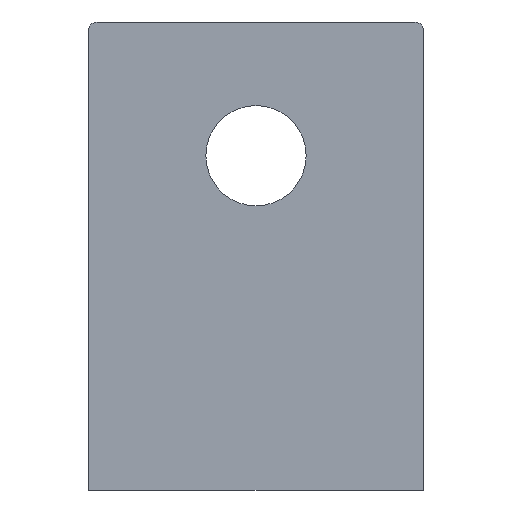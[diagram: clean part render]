
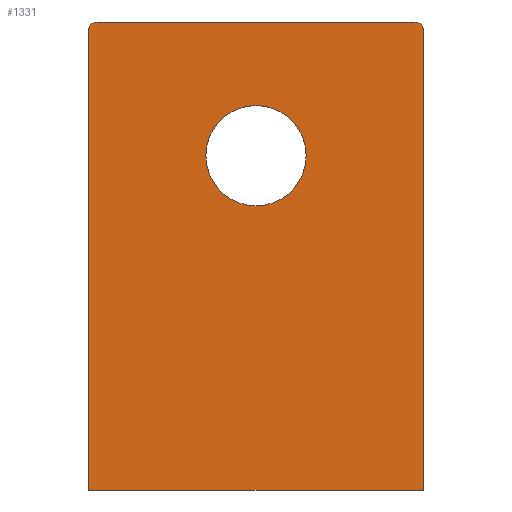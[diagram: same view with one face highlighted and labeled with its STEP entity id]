
A CAD part, front view. The second image highlights one B-rep face of the part: STEP entity #1331.
In plain terms, the highlighted planar face has unit normal (0, -1, 0).
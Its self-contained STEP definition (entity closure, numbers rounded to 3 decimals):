
#10 = ORIENTED_EDGE ( 'NONE', *, *, #200, .F. ) ;
#11 = ORIENTED_EDGE ( 'NONE', *, *, #183, .F. ) ;
#12 = ORIENTED_EDGE ( 'NONE', *, *, #176, .T. ) ;
#13 = ORIENTED_EDGE ( 'NONE', *, *, #481, .T. ) ;
#15 = ORIENTED_EDGE ( 'NONE', *, *, #490, .T. ) ;
#16 = ORIENTED_EDGE ( 'NONE', *, *, #486, .F. ) ;
#17 = ORIENTED_EDGE ( 'NONE', *, *, #483, .F. ) ;
#18 = ORIENTED_EDGE ( 'NONE', *, *, #491, .T. ) ;
#108 = AXIS2_PLACEMENT_3D ( 'NONE', #592, #591, #584 ) ;
#176 = EDGE_CURVE ( 'NONE', #1282, #1266, #310, .T. ) ;
#180 = AXIS2_PLACEMENT_3D ( 'NONE', #447, #445, #444 ) ;
#183 = EDGE_CURVE ( 'NONE', #1525, #1251, #994, .T. ) ;
#195 = AXIS2_PLACEMENT_3D ( 'NONE', #332, #331, #330 ) ;
#200 = EDGE_CURVE ( 'NONE', #1251, #1525, #1003, .T. ) ;
#206 = AXIS2_PLACEMENT_3D ( 'NONE', #631, #672, #698 ) ;
#245 = AXIS2_PLACEMENT_3D ( 'NONE', #431, #429, #428 ) ;
#310 = LINE ( 'NONE', #459, #313 ) ;
#313 = VECTOR ( 'NONE', #464, 1000. ) ;
#329 = CARTESIAN_POINT ( 'NONE',  ( 10., 0., 0. ) ) ;
#330 = DIRECTION ( 'NONE',  ( 0., 0., 1. ) ) ;
#331 = DIRECTION ( 'NONE',  ( 0., -1., 0. ) ) ;
#332 = CARTESIAN_POINT ( 'NONE',  ( -9.5, 0., 27.5 ) ) ;
#333 = DIRECTION ( 'NONE',  ( 0., 0., -1. ) ) ;
#334 = CARTESIAN_POINT ( 'NONE',  ( 10., 0., 0. ) ) ;
#428 = DIRECTION ( 'NONE',  ( 0., 0., 1. ) ) ;
#429 = DIRECTION ( 'NONE',  ( 0., -1., 0. ) ) ;
#431 = CARTESIAN_POINT ( 'NONE',  ( 0., 0., 20. ) ) ;
#444 = DIRECTION ( 'NONE',  ( 0., 0., 1. ) ) ;
#445 = DIRECTION ( 'NONE',  ( 0., -1., 0. ) ) ;
#447 = CARTESIAN_POINT ( 'NONE',  ( 0., 0., 20. ) ) ;
#459 = CARTESIAN_POINT ( 'NONE',  ( 10., 0., 28. ) ) ;
#464 = DIRECTION ( 'NONE',  ( -1., 0., 0. ) ) ;
#481 = EDGE_CURVE ( 'NONE', #1266, #1304, #1044, .T. ) ;
#483 = EDGE_CURVE ( 'NONE', #1293, #1322, #1046, .T. ) ;
#486 = EDGE_CURVE ( 'NONE', #1322, #1537, #1047, .T. ) ;
#490 = EDGE_CURVE ( 'NONE', #1304, #1537, #1058, .T. ) ;
#491 = EDGE_CURVE ( 'NONE', #1293, #1282, #1060, .T. ) ;
#522 = CARTESIAN_POINT ( 'NONE',  ( 10., 0., 27.5 ) ) ;
#526 = CARTESIAN_POINT ( 'NONE',  ( 9.5, 0., 28. ) ) ;
#533 = CARTESIAN_POINT ( 'NONE',  ( -9.5, 0., 28. ) ) ;
#556 = CARTESIAN_POINT ( 'NONE',  ( 0., 0., 23. ) ) ;
#584 = DIRECTION ( 'NONE',  ( 0., 0., 1. ) ) ;
#591 = DIRECTION ( 'NONE',  ( 0., -1., 0. ) ) ;
#592 = CARTESIAN_POINT ( 'NONE',  ( 9.5, 0., 27.5 ) ) ;
#602 = DIRECTION ( 'NONE',  ( 0., 0., -1. ) ) ;
#604 = CARTESIAN_POINT ( 'NONE',  ( -10., 0., 0. ) ) ;
#626 = DIRECTION ( 'NONE',  ( -1., 0., 0. ) ) ;
#630 = CARTESIAN_POINT ( 'NONE',  ( 10., 0., 0. ) ) ;
#631 = CARTESIAN_POINT ( 'NONE',  ( 10., 0., 0. ) ) ;
#672 = DIRECTION ( 'NONE',  ( 0., 1., 0. ) ) ;
#675 = CARTESIAN_POINT ( 'NONE',  ( -10., 0., 27.5 ) ) ;
#698 = DIRECTION ( 'NONE',  ( 0., 0., 1. ) ) ;
#703 = PLANE ( 'NONE',  #206 ) ;
#876 = FACE_OUTER_BOUND ( 'NONE', #1262, .T. ) ;
#879 = FACE_BOUND ( 'NONE', #1268, .T. ) ;
#994 = CIRCLE ( 'NONE', #180, 3. ) ;
#1003 = CIRCLE ( 'NONE', #245, 3. ) ;
#1044 = CIRCLE ( 'NONE', #195, 0.5 ) ;
#1046 = LINE ( 'NONE', #334, #1048 ) ;
#1047 = LINE ( 'NONE', #329, #1054 ) ;
#1048 = VECTOR ( 'NONE', #333, 1000. ) ;
#1054 = VECTOR ( 'NONE', #626, 1000. ) ;
#1058 = LINE ( 'NONE', #604, #1061 ) ;
#1060 = CIRCLE ( 'NONE', #108, 0.5 ) ;
#1061 = VECTOR ( 'NONE', #602, 1000. ) ;
#1087 = CARTESIAN_POINT ( 'NONE',  ( 0., 0., 17. ) ) ;
#1102 = CARTESIAN_POINT ( 'NONE',  ( -10., 0., 0. ) ) ;
#1251 = VERTEX_POINT ( 'NONE', #556 ) ;
#1262 = EDGE_LOOP ( 'NONE', ( #12, #13, #15, #16, #17, #18 ) ) ;
#1266 = VERTEX_POINT ( 'NONE', #533 ) ;
#1268 = EDGE_LOOP ( 'NONE', ( #10, #11 ) ) ;
#1282 = VERTEX_POINT ( 'NONE', #526 ) ;
#1293 = VERTEX_POINT ( 'NONE', #522 ) ;
#1304 = VERTEX_POINT ( 'NONE', #675 ) ;
#1322 = VERTEX_POINT ( 'NONE', #630 ) ;
#1331 = ADVANCED_FACE ( 'NONE', ( #879, #876 ), #703, .F. ) ;
#1525 = VERTEX_POINT ( 'NONE', #1087 ) ;
#1537 = VERTEX_POINT ( 'NONE', #1102 ) ;
